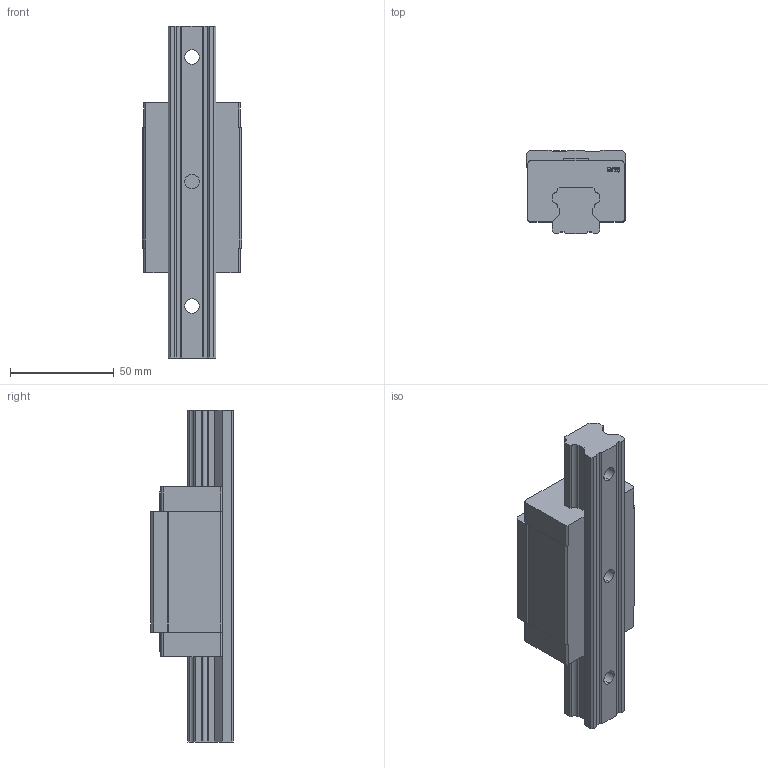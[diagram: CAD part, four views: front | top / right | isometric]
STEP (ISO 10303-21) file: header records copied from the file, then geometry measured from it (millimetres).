
FILE_DESCRIPTION (( 'STEP AP214' ), '1' );
FILE_NAME ('7.1018 Lineaarikelkka HTH25CA.STEP', '2026-03-11T06:28:49', ( '' ), ( '' ), 'SwSTEP 2.0', 'SolidWorks 2025', '' );
FILE_SCHEMA (( 'AUTOMOTIVE_DESIGN' ));
Length unit declared in the file: millimetre
Products named in the file (5): HG_ANY_ASM; HG_RAIL0_R_ANY; HG_BLOCK_HGHCA_ANY; HG_BLOCK_SS_ANY_ASM; 7.1018 Lineaarikelkka HTH25CA
Assembly tree (4 placements, depth 4):
  7.1018 Lineaarikelkka HTH25CA
    HG_ANY_ASM
      HG_BLOCK_SS_ANY_ASM
        HG_BLOCK_HGHCA_ANY
      HG_RAIL0_R_ANY
Bounding box: 48 x 40 x 160 mm (x, y, z)
Volume: 166549.6 mm3; surface area: 36806.5 mm2
Topology: 2 solids, 2 shells, 703 faces, 1986 edges, 1320 vertices
Faces by surface type: plane 639, cylinder 32, bspline 24, cone 8
Entity records: 32115 total; most frequent: CARTESIAN_POINT 6110, ORIENTED_EDGE 3956, DIRECTION 3378, EDGE_CURVE 1978, LINE 1858, VECTOR 1858, VERTEX_POINT 1320, AXIS2_PLACEMENT_3D 760
